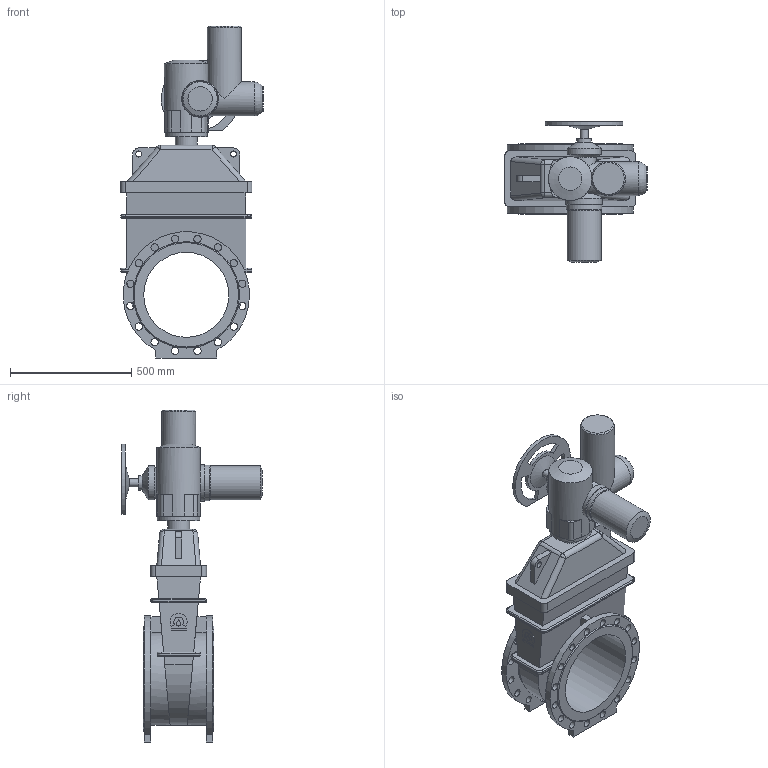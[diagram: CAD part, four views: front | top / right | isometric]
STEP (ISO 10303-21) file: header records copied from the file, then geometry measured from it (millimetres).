
FILE_DESCRIPTION(('STEP AP203'), '1');
FILE_NAME('青溻桄赅 47GVA DN350 PN10_PN16+MT903.A30', '', ('UNSPECIFIED'), ('UNSPECIFIED'), 'ASCON STEP Converter 1.6', 'ASCON Math Kernel', '');
FILE_SCHEMA(('CONFIG_CONTROL_DESIGN'));
Length unit declared in the file: millimetre
Bounding box: 587 x 578 x 1367 mm (x, y, z)
Volume: 71214224.6 mm3; surface area: 2834864.5 mm2
Topology: 2 solids, 2 shells, 297 faces, 746 edges, 475 vertices
Faces by surface type: plane 133, cylinder 132, bspline 14, cone 11, torus 7
Full cylindrical faces by diameter (mm): 14 x4, 18 x4, 25 x2, 30 x32, 32 x1, 34 x1, 60 x1, 90 x1, 100 x3, 140 x4, 147 x1, 151 x1, 175 x1, 350 x1
Entity records: 13150 total; most frequent: CARTESIAN_POINT 3751, DIRECTION 1426, ORIENTED_EDGE 1348, EDGE_CURVE 674, AXIS2_PLACEMENT_3D 543, EDGE_LOOP 475, VERTEX_POINT 475, FACE_BOUND 344
